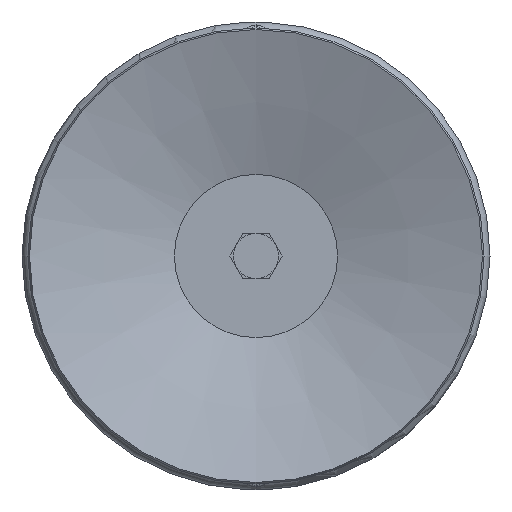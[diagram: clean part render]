
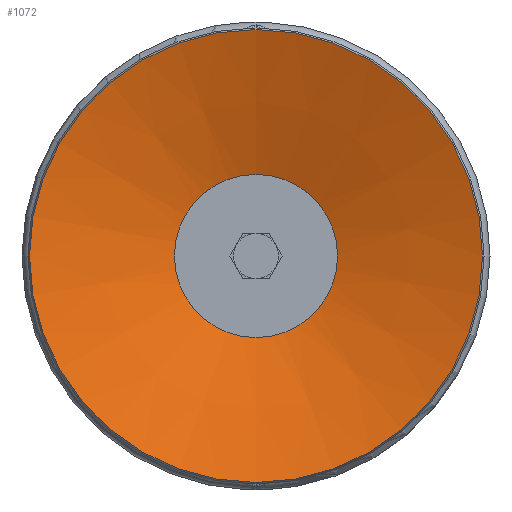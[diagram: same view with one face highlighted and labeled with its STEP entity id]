
A CAD part, front view. The second image highlights one B-rep face of the part: STEP entity #1072.
In plain terms, the highlighted conical face has half-angle 71.075 degrees and reference radius 15 mm.
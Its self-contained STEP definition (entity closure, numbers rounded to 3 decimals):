
#1072=ADVANCED_FACE('',(#2752,#2753),#2754,.F.);
#2752=FACE_BOUND('',#5139,.T.);
#2753=FACE_OUTER_BOUND('',#5140,.T.);
#2754=CONICAL_SURFACE('',#5141,15.0,1.24);
#5139=EDGE_LOOP('',(#8354));
#5140=EDGE_LOOP('',(#8355));
#5141=AXIS2_PLACEMENT_3D('',#8356,#8357,#8358);
#8354=ORIENTED_EDGE('',*,*,#15411,.T.);
#8355=ORIENTED_EDGE('',*,*,#15412,.T.);
#8356=CARTESIAN_POINT('',(0.,0.,0.0));
#8357=DIRECTION('',(0.0,0.,-1.0));
#8358=DIRECTION('',(0.0,1.0,0.));
#15411=EDGE_CURVE('',#18979,#18979,#18980,.T.);
#15412=EDGE_CURVE('',#18981,#18981,#18982,.T.);
#18979=VERTEX_POINT('',#25096);
#18980=CIRCLE('',#25097,5.4);
#18981=VERTEX_POINT('',#25098);
#18982=CIRCLE('',#25099,15.0);
#25096=CARTESIAN_POINT('',(-5.4,0.,3.291));
#25097=AXIS2_PLACEMENT_3D('',#30778,#30779,#30780);
#25098=CARTESIAN_POINT('',(0.,15.0,0.));
#25099=AXIS2_PLACEMENT_3D('',#30781,#30782,#30783);
#30778=CARTESIAN_POINT('',(0.,0.,3.291));
#30779=DIRECTION('',(0.,0.0,1.0));
#30780=DIRECTION('',(-1.0,0.0,0.));
#30781=CARTESIAN_POINT('',(0.,0.,0.0));
#30782=DIRECTION('',(0.0,0.,-1.0));
#30783=DIRECTION('',(0.0,1.0,0.));
